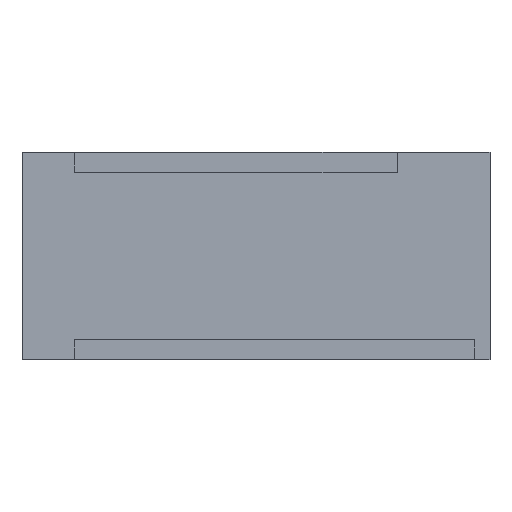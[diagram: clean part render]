
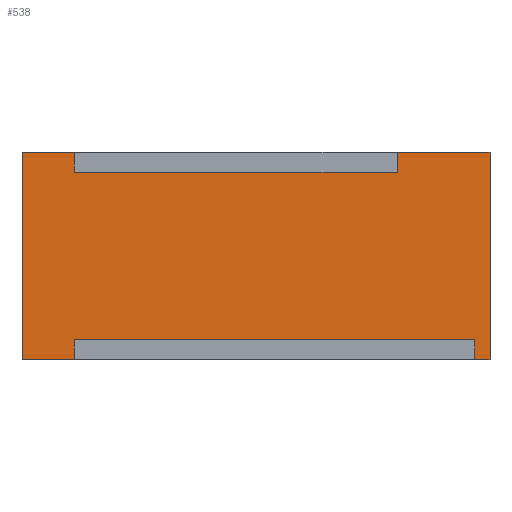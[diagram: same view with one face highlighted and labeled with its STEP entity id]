
A CAD part, top view. The second image highlights one B-rep face of the part: STEP entity #538.
In plain terms, the highlighted planar face has unit normal (0, 0, 1).
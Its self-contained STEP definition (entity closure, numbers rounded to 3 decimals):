
#37=FACE_OUTER_BOUND('',#65,.T.);
#65=EDGE_LOOP('',(#434,#435,#436,#437,#438,#439,#440,#441,#442,#443,#444,
#445));
#110=LINE('',#804,#182);
#114=LINE('',#812,#186);
#117=LINE('',#818,#189);
#121=LINE('',#827,#193);
#125=LINE('',#835,#197);
#128=LINE('',#841,#200);
#132=LINE('',#849,#204);
#133=LINE('',#851,#205);
#134=LINE('',#852,#206);
#135=LINE('',#854,#207);
#136=LINE('',#856,#208);
#137=LINE('',#857,#209);
#182=VECTOR('',#662,10.);
#186=VECTOR('',#668,10.);
#189=VECTOR('',#673,10.);
#193=VECTOR('',#681,10.);
#197=VECTOR('',#687,10.);
#200=VECTOR('',#692,10.);
#204=VECTOR('',#700,10.);
#205=VECTOR('',#701,10.);
#206=VECTOR('',#702,10.);
#207=VECTOR('',#703,10.);
#208=VECTOR('',#704,10.);
#209=VECTOR('',#705,10.);
#242=VERTEX_POINT('',#802);
#243=VERTEX_POINT('',#803);
#246=VERTEX_POINT('',#811);
#248=VERTEX_POINT('',#817);
#250=VERTEX_POINT('',#825);
#251=VERTEX_POINT('',#826);
#254=VERTEX_POINT('',#834);
#256=VERTEX_POINT('',#840);
#258=VERTEX_POINT('',#848);
#259=VERTEX_POINT('',#850);
#260=VERTEX_POINT('',#853);
#261=VERTEX_POINT('',#855);
#302=EDGE_CURVE('',#242,#243,#110,.T.);
#306=EDGE_CURVE('',#243,#246,#114,.T.);
#309=EDGE_CURVE('',#246,#248,#117,.T.);
#313=EDGE_CURVE('',#250,#251,#121,.T.);
#317=EDGE_CURVE('',#251,#254,#125,.T.);
#320=EDGE_CURVE('',#254,#256,#128,.T.);
#324=EDGE_CURVE('',#258,#248,#132,.T.);
#325=EDGE_CURVE('',#259,#258,#133,.T.);
#326=EDGE_CURVE('',#250,#259,#134,.T.);
#327=EDGE_CURVE('',#260,#256,#135,.T.);
#328=EDGE_CURVE('',#261,#260,#136,.T.);
#329=EDGE_CURVE('',#242,#261,#137,.T.);
#434=ORIENTED_EDGE('',*,*,#302,.T.);
#435=ORIENTED_EDGE('',*,*,#306,.T.);
#436=ORIENTED_EDGE('',*,*,#309,.T.);
#437=ORIENTED_EDGE('',*,*,#324,.F.);
#438=ORIENTED_EDGE('',*,*,#325,.F.);
#439=ORIENTED_EDGE('',*,*,#326,.F.);
#440=ORIENTED_EDGE('',*,*,#313,.T.);
#441=ORIENTED_EDGE('',*,*,#317,.T.);
#442=ORIENTED_EDGE('',*,*,#320,.T.);
#443=ORIENTED_EDGE('',*,*,#327,.F.);
#444=ORIENTED_EDGE('',*,*,#328,.F.);
#445=ORIENTED_EDGE('',*,*,#329,.F.);
#500=PLANE('',#585);
#538=ADVANCED_FACE('',(#37),#500,.F.);
#585=AXIS2_PLACEMENT_3D('',#847,#698,#699);
#662=DIRECTION('',(0.,-1.,0.));
#668=DIRECTION('',(-1.,0.,0.));
#673=DIRECTION('',(0.,1.,0.));
#681=DIRECTION('',(0.,1.,0.));
#687=DIRECTION('',(1.,0.,0.));
#692=DIRECTION('',(0.,-1.,0.));
#698=DIRECTION('center_axis',(0.,0.,-1.));
#699=DIRECTION('ref_axis',(-1.,0.,0.));
#700=DIRECTION('',(1.,0.,0.));
#701=DIRECTION('',(0.,1.,0.));
#702=DIRECTION('',(-1.,0.,0.));
#703=DIRECTION('',(-1.,0.,0.));
#704=DIRECTION('',(0.,-1.,0.));
#705=DIRECTION('',(1.,0.,0.));
#802=CARTESIAN_POINT('',(17.8,13.05,0.));
#803=CARTESIAN_POINT('',(17.8,10.55,0.));
#804=CARTESIAN_POINT('',(17.8,5.275,0.));
#811=CARTESIAN_POINT('',(-22.9,10.55,0.));
#812=CARTESIAN_POINT('',(-11.45,10.55,0.));
#817=CARTESIAN_POINT('',(-22.9,13.05,0.));
#818=CARTESIAN_POINT('',(-22.9,6.525,0.));
#825=CARTESIAN_POINT('',(-22.9,-13.05,0.));
#826=CARTESIAN_POINT('',(-22.9,-10.55,0.));
#827=CARTESIAN_POINT('',(-22.9,-5.275,0.));
#834=CARTESIAN_POINT('',(27.6,-10.55,0.));
#835=CARTESIAN_POINT('',(13.8,-10.55,0.));
#840=CARTESIAN_POINT('',(27.6,-13.05,0.));
#841=CARTESIAN_POINT('',(27.6,-6.525,0.));
#847=CARTESIAN_POINT('Origin',(0.,0.,0.));
#848=CARTESIAN_POINT('',(-29.5,13.05,0.));
#849=CARTESIAN_POINT('',(-29.5,13.05,0.));
#850=CARTESIAN_POINT('',(-29.5,-13.05,0.));
#851=CARTESIAN_POINT('',(-29.5,-13.05,0.));
#852=CARTESIAN_POINT('',(29.5,-13.05,0.));
#853=CARTESIAN_POINT('',(29.5,-13.05,0.));
#854=CARTESIAN_POINT('',(29.5,-13.05,0.));
#855=CARTESIAN_POINT('',(29.5,13.05,0.));
#856=CARTESIAN_POINT('',(29.5,13.05,0.));
#857=CARTESIAN_POINT('',(-29.5,13.05,0.));
